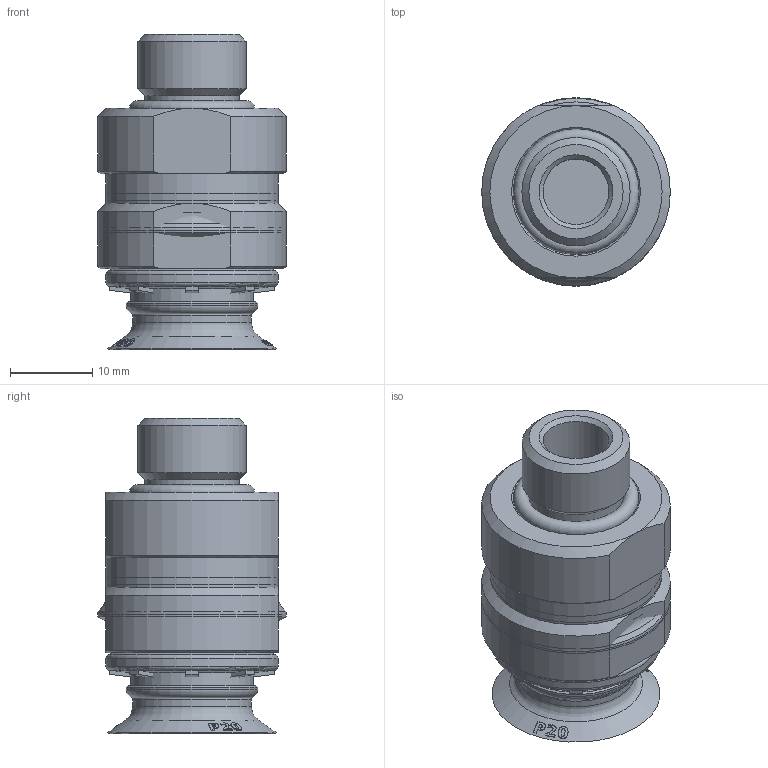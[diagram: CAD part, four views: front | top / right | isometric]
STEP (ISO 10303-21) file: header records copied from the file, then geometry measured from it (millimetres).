
FILE_DESCRIPTION( ( 'Unknown' ), '1' );
FILE_NAME( 'C:/Documents and Settings/Administrator/官帕 拳搁/Magic Cup (Dim)/B1.5/P TYPE/B1.5-20/B1.5-20-P20-N6-D-F2-14M.stp', 'Unknown', ( 'Unknown' ), ( 'Unknown' ), 'XStep 1.0', 'Unknown', ' ' );
FILE_SCHEMA( ( 'automotive_design' ) );
Length unit declared in the file: millimetre
Products named in the file (8): Assem1; Assem2; Assem3; B1.5-20(DIM); 20-14M(DIM); 14M-Oring(DIM); 赤20 STOPPER ; P20
Bounding box: 23 x 23 x 38.45 mm (x, y, z)
Surface area: 23396.4 mm2
Topology: 15 solids, 15 shells, 1953 faces, 4974 edges, 3162 vertices
Faces by surface type: bspline 567, plane 552, cone 429, torus 264, cylinder 141
Full cylindrical faces by diameter (mm): 7.5 x3, 8 x3, 9.8 x3, 11.5 x3, 11.7 x3, 11.9 x6, 13.2 x3, 13.4 x6, 14.4 x3, 14.499 x3, 15 x6, 15.3 x3, 15.7 x6, 16 x3, 17 x6, 17.5 x3, 17.527 x3, 19.8 x3, 21 x6, 23 x3
Entity records: 29067 total; most frequent: CARTESIAN_POINT 12566, ORIENTED_EDGE 3122, DIRECTION 2046, EDGE_CURVE 1561, VERTEX_POINT 1042, AXIS2_PLACEMENT_3D 926, B_SPLINE_CURVE_WITH_KNOTS 911, EDGE_LOOP 783
